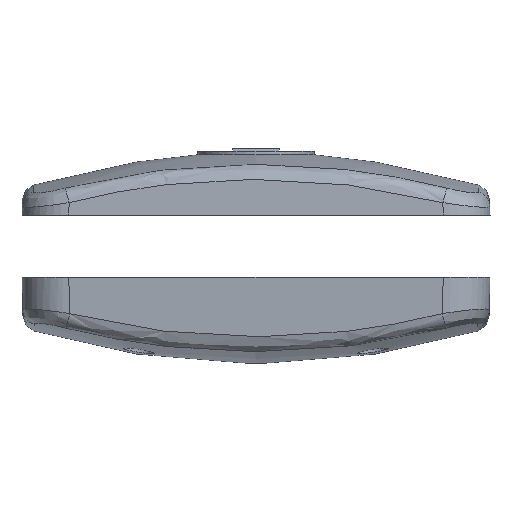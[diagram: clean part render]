
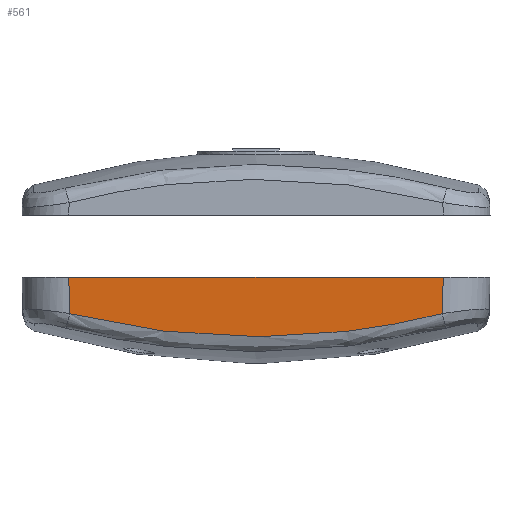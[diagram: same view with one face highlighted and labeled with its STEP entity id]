
A CAD part, left-side view. The second image highlights one B-rep face of the part: STEP entity #561.
In plain terms, the highlighted planar face has unit normal (-1, 0, -0.026).
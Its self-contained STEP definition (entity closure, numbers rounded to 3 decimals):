
#171=FACE_OUTER_BOUND('',#847,.T.);
#245=PLANE('',#2136);
#326=LINE('',#4355,#404);
#327=LINE('',#4363,#405);
#328=LINE('',#4365,#406);
#404=VECTOR('',#2464,1.);
#405=VECTOR('',#2465,1.);
#406=VECTOR('',#2466,1.);
#561=ADVANCED_FACE('',(#171),#245,.T.);
#847=EDGE_LOOP('',(#1249,#1250,#1251,#1252));
#1249=ORIENTED_EDGE('',*,*,#1844,.T.);
#1250=ORIENTED_EDGE('',*,*,#1845,.T.);
#1251=ORIENTED_EDGE('',*,*,#1846,.T.);
#1252=ORIENTED_EDGE('',*,*,#1847,.F.);
#1613=VERTEX_POINT('',#4356);
#1614=VERTEX_POINT('',#4357);
#1615=VERTEX_POINT('',#4362);
#1616=VERTEX_POINT('',#4364);
#1844=EDGE_CURVE('',#1613,#1614,#326,.T.);
#1845=EDGE_CURVE('',#1614,#1615,#2006,.T.);
#1846=EDGE_CURVE('',#1615,#1616,#327,.T.);
#1847=EDGE_CURVE('',#1613,#1616,#328,.T.);
#2006=B_SPLINE_CURVE_WITH_KNOTS('',3,(#4358,#4359,#4360,#4361),
 .UNSPECIFIED.,.F.,.F.,(4,4),(0.,1.),.UNSPECIFIED.);
#2136=AXIS2_PLACEMENT_3D('',#4366,#2467,#2468);
#2464=DIRECTION('',(0.026,-0.026,-0.999));
#2465=DIRECTION('',(-0.026,-0.026,0.999));
#2466=DIRECTION('',(0.,-1.,0.));
#2467=DIRECTION('',(-1.,0.,-0.026));
#2468=DIRECTION('',(-0.026,0.,1.));
#4355=CARTESIAN_POINT('',(0.016,53.986,-10.634));
#4356=CARTESIAN_POINT('',(0.,54.002,-10.006));
#4357=CARTESIAN_POINT('',(0.121,53.881,-14.64));
#4358=CARTESIAN_POINT('',(0.121,53.881,-14.64));
#4359=CARTESIAN_POINT('',(0.225,38.25,-18.584));
#4360=CARTESIAN_POINT('',(0.225,21.75,-18.584));
#4361=CARTESIAN_POINT('',(0.121,6.119,-14.64));
#4362=CARTESIAN_POINT('',(0.121,6.119,-14.64));
#4363=CARTESIAN_POINT('',(0.016,6.014,-10.634));
#4364=CARTESIAN_POINT('',(0.,5.998,-10.006));
#4365=CARTESIAN_POINT('',(0.,0.,-10.006));
#4366=CARTESIAN_POINT('',(0.,30.,-10.006));
